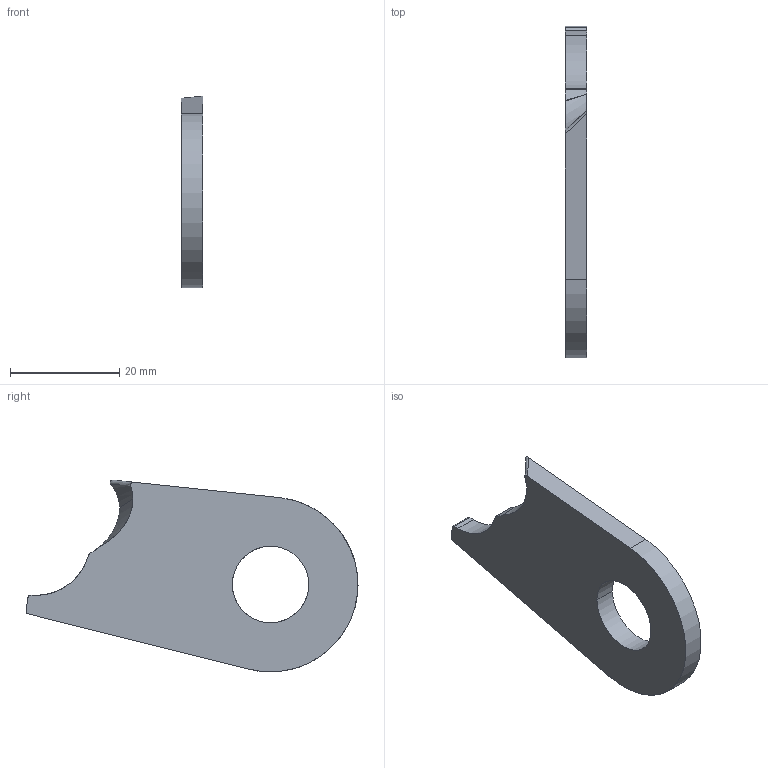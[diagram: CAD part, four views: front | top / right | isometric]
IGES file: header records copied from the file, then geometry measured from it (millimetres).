
Start section: START RECORD GO HERE.
Global section: file name: EN_06131 (Chape PE Gaut Haut 1).igs; native system: 44HIBM CATIA IGES - CATIA Version 5 Release 19; preprocessor: CATIA Version 5 Release 19 ; author: Martin Kawczynski; organization: DESKTOP-UDLM1FC; date: 20200104.170655; units: millimetre
Bounding box: 4 x 60.77 x 35.08 mm (x, y, z)
Surface area: 3318.7 mm2 (no closed solid volume)
Topology: 0 solids, 0 shells, 19 faces, 101 edges, 100 vertices
Faces by surface type: revolution 11, plane 5, bspline 2, extrusion 1
